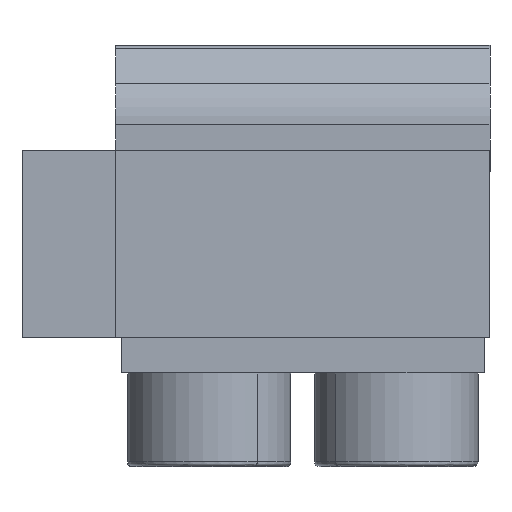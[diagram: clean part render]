
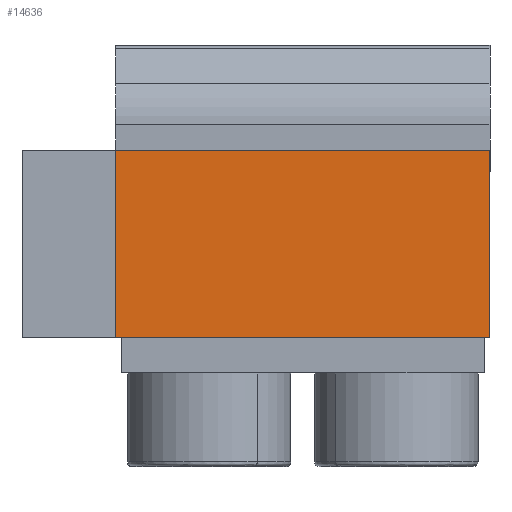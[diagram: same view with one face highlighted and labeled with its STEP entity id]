
A CAD part, front view. The second image highlights one B-rep face of the part: STEP entity #14636.
In plain terms, the highlighted planar face has unit normal (0, -1, 0).
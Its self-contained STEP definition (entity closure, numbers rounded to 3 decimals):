
#201 = CARTESIAN_POINT ( 'NONE',  ( -1.57, -3.847, 37.493 ) ) ;
#405 = DIRECTION ( 'NONE',  ( 0., 0., 1. ) ) ;
#1064 = ORIENTED_EDGE ( 'NONE', *, *, #11594, .T. ) ;
#1727 = CARTESIAN_POINT ( 'NONE',  ( 6.43, -3.847, 41.493 ) ) ;
#2661 = ORIENTED_EDGE ( 'NONE', *, *, #9522, .F. ) ;
#3536 = CARTESIAN_POINT ( 'NONE',  ( -1.57, -3.847, 33.493 ) ) ;
#3605 = LINE ( 'NONE', #201, #5650 ) ;
#3629 = VERTEX_POINT ( 'NONE', #3536 ) ;
#4548 = VERTEX_POINT ( 'NONE', #14436 ) ;
#5541 = DIRECTION ( 'NONE',  ( -1., 0., 0. ) ) ;
#5650 = VECTOR ( 'NONE', #405, 1000. ) ;
#5937 = EDGE_LOOP ( 'NONE', ( #7559, #2661, #12279, #1064 ) ) ;
#7559 = ORIENTED_EDGE ( 'NONE', *, *, #11945, .F. ) ;
#7676 = VECTOR ( 'NONE', #10261, 1000. ) ;
#7734 = DIRECTION ( 'NONE',  ( 0., -1., 0. ) ) ;
#8189 = CARTESIAN_POINT ( 'NONE',  ( -1.57, -3.847, 41.493 ) ) ;
#8235 = FACE_OUTER_BOUND ( 'NONE', #5937, .T. ) ;
#9112 = PLANE ( 'NONE',  #9363 ) ;
#9282 = VERTEX_POINT ( 'NONE', #13663 ) ;
#9363 = AXIS2_PLACEMENT_3D ( 'NONE', #11556, #7734, #14222 ) ;
#9522 = EDGE_CURVE ( 'NONE', #4548, #3629, #12288, .T. ) ;
#10088 = VECTOR ( 'NONE', #5541, 1000. ) ;
#10217 = CARTESIAN_POINT ( 'NONE',  ( 14.43, -3.847, 37.493 ) ) ;
#10261 = DIRECTION ( 'NONE',  ( -1., 0., 0. ) ) ;
#10400 = LINE ( 'NONE', #10217, #10780 ) ;
#10780 = VECTOR ( 'NONE', #12601, 1000. ) ;
#11556 = CARTESIAN_POINT ( 'NONE',  ( -1.57, -3.847, 41.493 ) ) ;
#11575 = CARTESIAN_POINT ( 'NONE',  ( 4.43, -3.847, 33.493 ) ) ;
#11594 = EDGE_CURVE ( 'NONE', #9282, #15791, #16325, .T. ) ;
#11945 = EDGE_CURVE ( 'NONE', #3629, #15791, #3605, .T. ) ;
#12279 = ORIENTED_EDGE ( 'NONE', *, *, #15630, .T. ) ;
#12288 = LINE ( 'NONE', #11575, #7676 ) ;
#12601 = DIRECTION ( 'NONE',  ( 0., 0., 1. ) ) ;
#13663 = CARTESIAN_POINT ( 'NONE',  ( 14.43, -3.847, 41.493 ) ) ;
#14222 = DIRECTION ( 'NONE',  ( 0., 0., -1. ) ) ;
#14436 = CARTESIAN_POINT ( 'NONE',  ( 14.43, -3.847, 33.493 ) ) ;
#14636 = ADVANCED_FACE ( 'NONE', ( #8235 ), #9112, .T. ) ;
#15630 = EDGE_CURVE ( 'NONE', #4548, #9282, #10400, .T. ) ;
#15791 = VERTEX_POINT ( 'NONE', #8189 ) ;
#16325 = LINE ( 'NONE', #1727, #10088 ) ;
